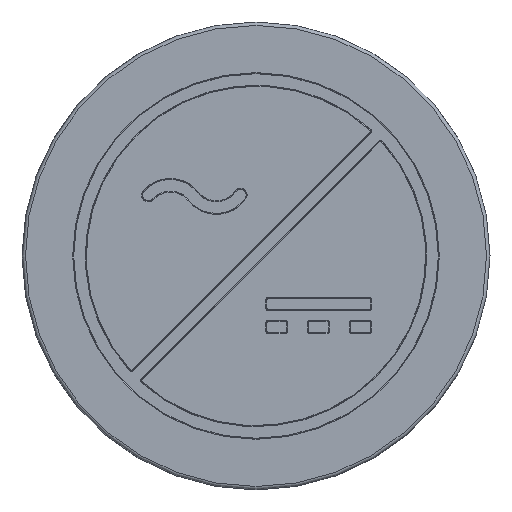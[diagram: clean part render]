
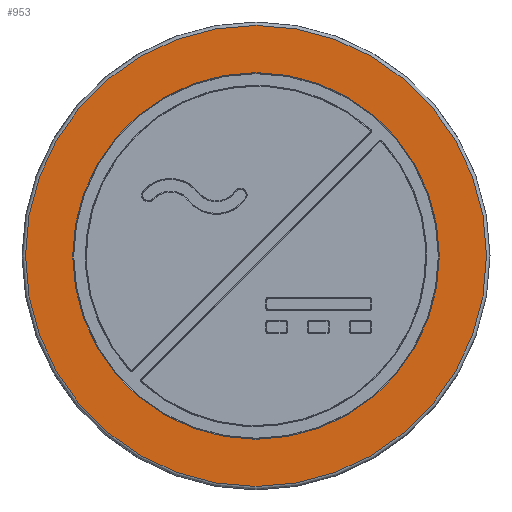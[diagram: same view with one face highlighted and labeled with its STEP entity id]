
A CAD part, top view. The second image highlights one B-rep face of the part: STEP entity #953.
In plain terms, the highlighted planar face has unit normal (0, 0, 1).
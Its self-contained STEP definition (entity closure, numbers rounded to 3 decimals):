
#29 = DIRECTION ( 'NONE',  ( 0., -1., 0. ) ) ;
#434 = CARTESIAN_POINT ( 'NONE',  ( 0., -22.067, 0.25 ) ) ;
#606 = AXIS2_PLACEMENT_3D ( 'NONE', #4271, #2995, #29 ) ;
#738 = CARTESIAN_POINT ( 'NONE',  ( 0., -22.4, 0.25 ) ) ;
#917 = EDGE_CURVE ( 'NONE', #2702, #2702, #1552, .T. ) ;
#953 = ADVANCED_FACE ( 'NONE', ( #3331, #1419 ), #3995, .F. ) ;
#1060 = VERTEX_POINT ( 'NONE', #434 ) ;
#1295 = CIRCLE ( 'NONE', #606, 22.067 ) ;
#1419 = FACE_OUTER_BOUND ( 'NONE', #2801, .T. ) ;
#1552 = CIRCLE ( 'NONE', #3414, 17.55 ) ;
#2005 = CARTESIAN_POINT ( 'NONE',  ( 0., 0., 0.25 ) ) ;
#2252 = DIRECTION ( 'NONE',  ( 0., -1., 0. ) ) ;
#2702 = VERTEX_POINT ( 'NONE', #3711 ) ;
#2763 = DIRECTION ( 'NONE',  ( 0., 0., -1. ) ) ;
#2767 = ORIENTED_EDGE ( 'NONE', *, *, #2846, .F. ) ;
#2801 = EDGE_LOOP ( 'NONE', ( #2767 ) ) ;
#2846 = EDGE_CURVE ( 'NONE', #1060, #1060, #1295, .T. ) ;
#2995 = DIRECTION ( 'NONE',  ( 0., 0., -1. ) ) ;
#3331 = FACE_BOUND ( 'NONE', #3972, .T. ) ;
#3414 = AXIS2_PLACEMENT_3D ( 'NONE', #2005, #4214, #2252 ) ;
#3710 = DIRECTION ( 'NONE',  ( 1., 0., 0. ) ) ;
#3711 = CARTESIAN_POINT ( 'NONE',  ( 0., -17.55, 0.25 ) ) ;
#3764 = ORIENTED_EDGE ( 'NONE', *, *, #917, .T. ) ;
#3896 = AXIS2_PLACEMENT_3D ( 'NONE', #738, #2763, #3710 ) ;
#3972 = EDGE_LOOP ( 'NONE', ( #3764 ) ) ;
#3995 = PLANE ( 'NONE',  #3896 ) ;
#4214 = DIRECTION ( 'NONE',  ( 0., 0., -1. ) ) ;
#4271 = CARTESIAN_POINT ( 'NONE',  ( 0., 0., 0.25 ) ) ;
